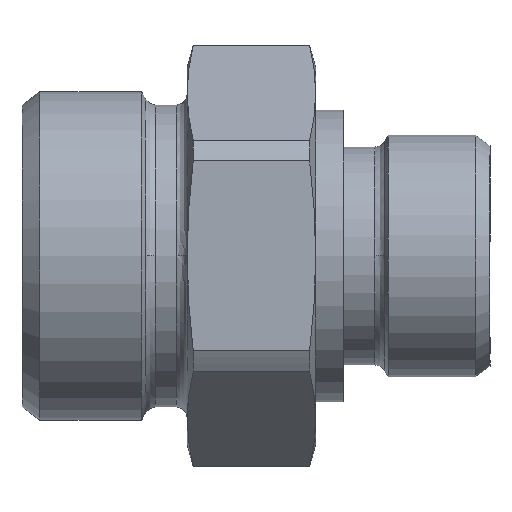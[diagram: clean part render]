
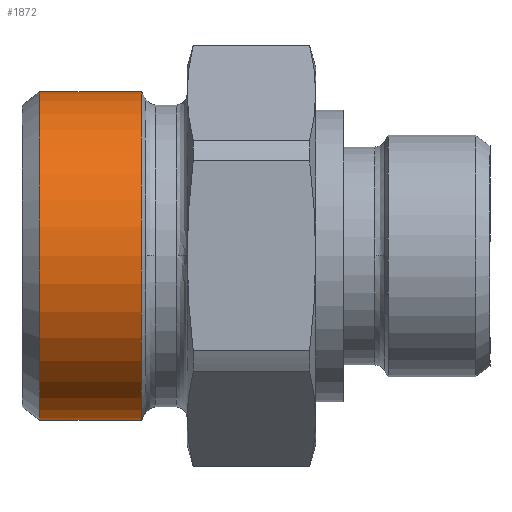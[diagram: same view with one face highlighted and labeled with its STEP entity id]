
A CAD part, top view. The second image highlights one B-rep face of the part: STEP entity #1872.
In plain terms, the highlighted cylindrical face has radius 17.91 mm (diameter 35.82 mm), a partial arc.
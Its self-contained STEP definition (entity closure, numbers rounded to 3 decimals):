
#908=CARTESIAN_POINT('',(0.,-17.91,23.063));
#909=VERTEX_POINT('',#908);
#910=CARTESIAN_POINT('',(0.,-17.91,11.993));
#911=VERTEX_POINT('',#910);
#912=CARTESIAN_POINT('',(0.,-17.91,23.063));
#913=DIRECTION('',(0.0,0.0,-1.0));
#914=VECTOR('',#913,11.07);
#915=LINE('',#912,#914);
#916=EDGE_CURVE('',#909,#911,#915,.T.);
#918=CARTESIAN_POINT('',(0.,17.91,23.063));
#919=VERTEX_POINT('',#918);
#927=CARTESIAN_POINT('',(0.,17.91,11.993));
#928=VERTEX_POINT('',#927);
#929=CARTESIAN_POINT('',(0.,17.91,11.993));
#930=DIRECTION('',(0.0,0.0,1.0));
#931=VECTOR('',#930,11.07);
#932=LINE('',#929,#931);
#933=EDGE_CURVE('',#928,#919,#932,.T.);
#1748=CARTESIAN_POINT('',(0.,0.,11.993));
#1749=DIRECTION('',(0.0,0.0,-1.0));
#1750=DIRECTION('',(0.0,-1.0,0.0));
#1751=AXIS2_PLACEMENT_3D('',#1748,#1749,#1750);
#1752=CIRCLE('',#1751,17.91);
#1753=EDGE_CURVE('',#928,#911,#1752,.T.);
#1849=CARTESIAN_POINT('',(0.,0.,23.063));
#1850=DIRECTION('',(0.0,0.0,-1.0));
#1851=DIRECTION('',(0.0,-1.0,0.0));
#1852=AXIS2_PLACEMENT_3D('',#1849,#1850,#1851);
#1853=CIRCLE('',#1852,17.91);
#1854=EDGE_CURVE('',#919,#909,#1853,.T.);
#1861=CARTESIAN_POINT('',(0.,0.,17.528));
#1862=DIRECTION('',(0.,0.,-1.0));
#1863=DIRECTION('',(0.0,-1.0,0.0));
#1864=AXIS2_PLACEMENT_3D('',#1861,#1862,#1863);
#1865=CYLINDRICAL_SURFACE('',#1864,17.91);
#1866=ORIENTED_EDGE('',*,*,#916,.T.);
#1867=ORIENTED_EDGE('',*,*,#1753,.F.);
#1868=ORIENTED_EDGE('',*,*,#933,.T.);
#1869=ORIENTED_EDGE('',*,*,#1854,.T.);
#1870=EDGE_LOOP('',(#1866,#1867,#1868,#1869));
#1871=FACE_OUTER_BOUND('',#1870,.T.);
#1872=ADVANCED_FACE('',(#1871),#1865,.T.);
